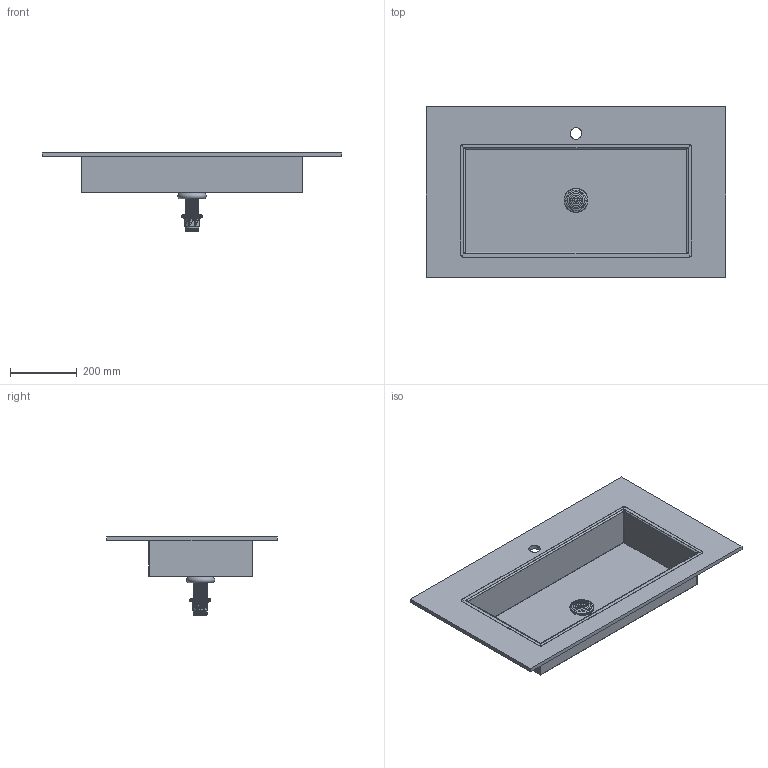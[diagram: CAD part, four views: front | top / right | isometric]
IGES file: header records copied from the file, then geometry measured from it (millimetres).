
Start section: Data from Parasolid IGES Translator 19.0.9, Copyright(c) 2006 Siemens PL M Software. All Rights Reserved.
Global section: file name: noorth-top-H 1,2 D 51,3 W 90_6556.igs; native system: By Siemens PLM Incorporated; preprocessor: XPlus GENERIC/IGES 19.0.9; author: Noname; organization: Noname; date: 20200603.104807; units: metre
Bounding box: 900 x 512 x 235.2 mm (x, y, z)
Volume: 3111706.8 mm3; surface area: 1510015.8 mm2
Topology: 2 solids, 2 shells, 11732 faces, 35116 edges, 35006 vertices
Faces by surface type: extrusion 11618, plane 60, cylinder 28, bspline 20, torus 4, cone 2
Full cylindrical faces by diameter (mm): 34.9 x1, 42 x1, 46 x1, 47.6 x1
